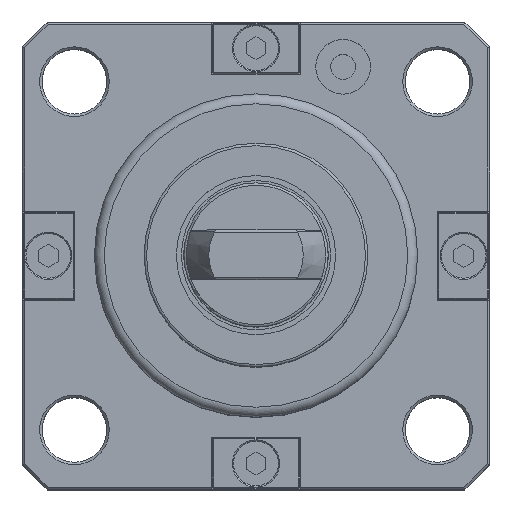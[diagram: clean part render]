
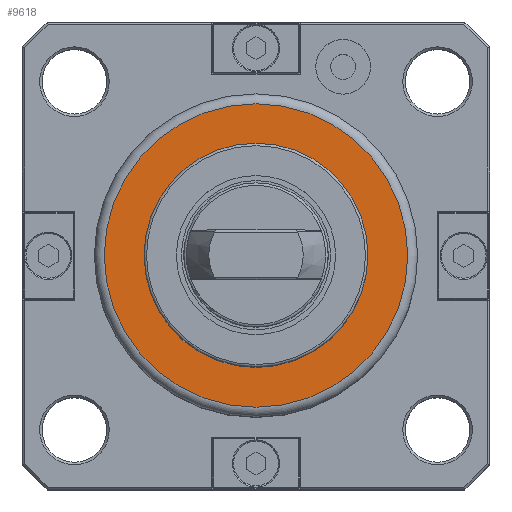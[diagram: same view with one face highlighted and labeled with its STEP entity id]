
A CAD part, top view. The second image highlights one B-rep face of the part: STEP entity #9618.
In plain terms, the highlighted planar face has unit normal (0, 0, 1).
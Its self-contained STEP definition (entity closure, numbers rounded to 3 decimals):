
#153=FACE_BOUND('',#1995,.T.);
#977=CIRCLE('',#10468,22.5);
#990=CIRCLE('',#10492,30.5);
#1409=FACE_OUTER_BOUND('',#1994,.T.);
#1994=EDGE_LOOP('',(#8013));
#1995=EDGE_LOOP('',(#8014));
#4522=VERTEX_POINT('',#15872);
#4534=VERTEX_POINT('',#15913);
#5729=EDGE_CURVE('',#4522,#4522,#977,.T.);
#5746=EDGE_CURVE('',#4534,#4534,#990,.T.);
#8013=ORIENTED_EDGE('',*,*,#5746,.T.);
#8014=ORIENTED_EDGE('',*,*,#5729,.F.);
#9149=PLANE('',#10494);
#9618=ADVANCED_FACE('',(#1409,#153),#9149,.T.);
#10468=AXIS2_PLACEMENT_3D('',#15874,#12446,#12447);
#10492=AXIS2_PLACEMENT_3D('',#15914,#12498,#12499);
#10494=AXIS2_PLACEMENT_3D('',#15916,#12502,#12503);
#12446=DIRECTION('center_axis',(0.,0.,1.));
#12447=DIRECTION('ref_axis',(1.,0.,0.));
#12498=DIRECTION('center_axis',(0.,0.,1.));
#12499=DIRECTION('ref_axis',(1.,0.,0.));
#12502=DIRECTION('center_axis',(0.,0.,1.));
#12503=DIRECTION('ref_axis',(1.,0.,0.));
#15872=CARTESIAN_POINT('',(0.,-22.5,76.));
#15874=CARTESIAN_POINT('Origin',(0.,0.,76.));
#15913=CARTESIAN_POINT('',(-30.5,0.,76.));
#15914=CARTESIAN_POINT('Origin',(0.,0.,76.));
#15916=CARTESIAN_POINT('Origin',(0.,22.5,76.));
